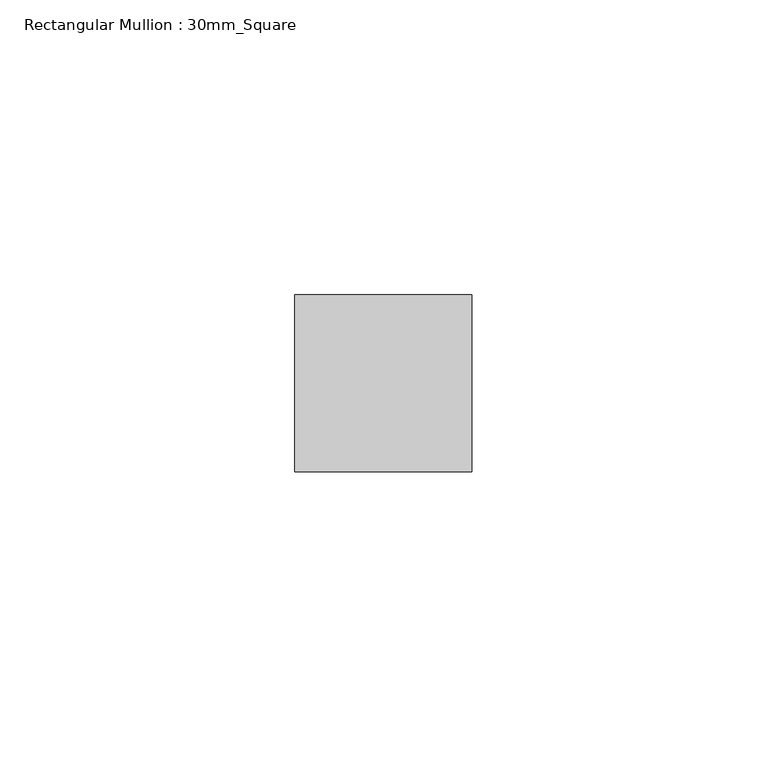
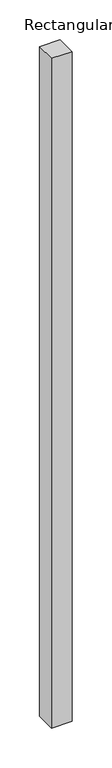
"""IFC4 building model written with IfcOpenShell, lengths in millimetres: member geometry, Rectangular Mullion : 30mm_Square."""

from ifc_helpers import new_model, si_unit, frame, origin, place, context, project, spatial, polyline, outline, extrude, source, transform, mapped, element, save


def rectangular_mullion_30mm_square_eae749a8(model_context):
    return source(origin(), model_context, "Body", "SweptSolid", [
        extrude(outline(polyline([(15.0, 2.5), (15.0, -27.5), (-15.0, -27.5), (-15.0, 2.5), (15.0, 2.5)])), frame((0.0, 0.0, -1027.4857142), z_axis=(0.0, 0.0, 1.0), x_axis=(1.0, 0.0, 0.0)), (0.0, 0.0, 1.0), 1027.4857142),
    ])


if __name__ == "__main__":
    model = new_model("IFC4")
    model_context = context("Model", 3, world=origin())
    ifc_project = project(units=[si_unit("LENGTHUNIT", "METRE", prefix="MILLI")], contexts=[model_context])
    site = spatial("IfcSite", under=ifc_project)
    building = spatial("IfcBuilding", under=site)
    placement = place(None, origin())
    rectangular_mullion_30mm_square_shape = rectangular_mullion_30mm_square_eae749a8(model_context)
    element("IfcMember", 1, ObjectType="Rectangular Mullion : 30mm_Square", at=placement, inside=building, context=model_context, shape_type="MappedRepresentation", body=[
        mapped(rectangular_mullion_30mm_square_shape, transform((0.0, 0.0, 0.0), x_axis=(1.0, 0.0, 0.0), y_axis=(0.0, 1.0, 0.0), z_axis=(0.0, 0.0, 1.0))),
    ])
    save(model, "model.ifc")
